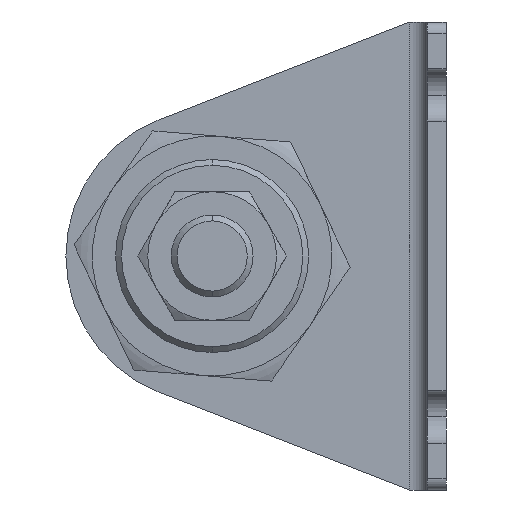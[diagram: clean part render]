
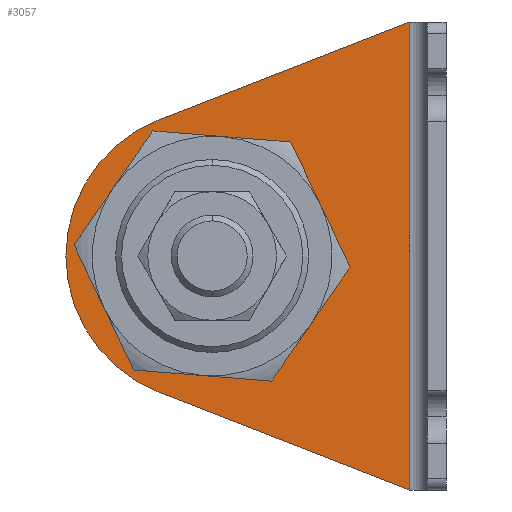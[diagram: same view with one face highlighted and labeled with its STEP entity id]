
A CAD part, left-side view. The second image highlights one B-rep face of the part: STEP entity #3057.
In plain terms, the highlighted planar face has unit normal (-1, 0, 0) as drawn and (1, 0, 0) by its records, which use the part's own axes.
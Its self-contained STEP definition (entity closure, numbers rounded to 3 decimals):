
#19 = EDGE_CURVE ( 'NONE', #4283, #2042, #759, .T. ) ;
#191 = CARTESIAN_POINT ( 'NONE',  ( 3.2, 6.2, 0. ) ) ;
#225 = VECTOR ( 'NONE', #3807, 1000. ) ;
#364 = EDGE_LOOP ( 'NONE', ( #3931, #508, #1097, #3179, #2885 ) ) ;
#400 = VERTEX_POINT ( 'NONE', #4036 ) ;
#467 = DIRECTION ( 'NONE',  ( 0., 0.932, 0.363 ) ) ;
#500 = CARTESIAN_POINT ( 'NONE',  ( 3.2, 56.5, -40. ) ) ;
#503 = CARTESIAN_POINT ( 'NONE',  ( 3.2, 40., -40. ) ) ;
#508 = ORIENTED_EDGE ( 'NONE', *, *, #19, .T. ) ;
#565 = ORIENTED_EDGE ( 'NONE', *, *, #2071, .F. ) ;
#759 = CIRCLE ( 'NONE', #3950, 25. ) ;
#798 = CIRCLE ( 'NONE', #1083, 16.5 ) ;
#901 = CARTESIAN_POINT ( 'NONE',  ( 3.2, 3.595, -81.015 ) ) ;
#952 = EDGE_CURVE ( 'NONE', #2042, #400, #3707, .T. ) ;
#1026 = EDGE_CURVE ( 'NONE', #2279, #2655, #798, .T. ) ;
#1053 = DIRECTION ( 'NONE',  ( 0., 1., 0. ) ) ;
#1083 = AXIS2_PLACEMENT_3D ( 'NONE', #4458, #2097, #1531 ) ;
#1097 = ORIENTED_EDGE ( 'NONE', *, *, #952, .T. ) ;
#1150 = DIRECTION ( 'NONE',  ( 0., 1., 0. ) ) ;
#1162 = AXIS2_PLACEMENT_3D ( 'NONE', #503, #2567, #1165 ) ;
#1165 = DIRECTION ( 'NONE',  ( 0., 1., 0. ) ) ;
#1192 = LINE ( 'NONE', #901, #1700 ) ;
#1212 = DIRECTION ( 'NONE',  ( 1., 0., 0. ) ) ;
#1264 = CARTESIAN_POINT ( 'NONE',  ( 3.2, 6.2, -80. ) ) ;
#1395 = CARTESIAN_POINT ( 'NONE',  ( 3.2, 30.657, -9.529 ) ) ;
#1503 = EDGE_CURVE ( 'NONE', #1628, #4283, #1192, .T. ) ;
#1527 = FACE_BOUND ( 'NONE', #2185, .T. ) ;
#1531 = DIRECTION ( 'NONE',  ( 0., 1., 0. ) ) ;
#1628 = VERTEX_POINT ( 'NONE', #1737 ) ;
#1700 = VECTOR ( 'NONE', #467, 1000. ) ;
#1737 = CARTESIAN_POINT ( 'NONE',  ( 3.2, 6.2, -80. ) ) ;
#1970 = CIRCLE ( 'NONE', #1162, 16.5 ) ;
#2012 = FACE_OUTER_BOUND ( 'NONE', #364, .T. ) ;
#2042 = VERTEX_POINT ( 'NONE', #4400 ) ;
#2071 = EDGE_CURVE ( 'NONE', #2655, #2279, #1970, .T. ) ;
#2097 = DIRECTION ( 'NONE',  ( 1., 0., 0. ) ) ;
#2112 = AXIS2_PLACEMENT_3D ( 'NONE', #3631, #4182, #1150 ) ;
#2162 = CARTESIAN_POINT ( 'NONE',  ( 3.2, 40., -40. ) ) ;
#2171 = CARTESIAN_POINT ( 'NONE',  ( 3.2, 23.5, -40. ) ) ;
#2175 = EDGE_CURVE ( 'NONE', #2292, #400, #2399, .T. ) ;
#2185 = EDGE_LOOP ( 'NONE', ( #565, #4207 ) ) ;
#2279 = VERTEX_POINT ( 'NONE', #2171 ) ;
#2292 = VERTEX_POINT ( 'NONE', #191 ) ;
#2384 = DIRECTION ( 'NONE',  ( 1., 0., 0. ) ) ;
#2399 = LINE ( 'NONE', #1395, #2770 ) ;
#2567 = DIRECTION ( 'NONE',  ( 1., 0., 0. ) ) ;
#2655 = VERTEX_POINT ( 'NONE', #500 ) ;
#2661 = LINE ( 'NONE', #1264, #225 ) ;
#2770 = VECTOR ( 'NONE', #3164, 1000. ) ;
#2885 = ORIENTED_EDGE ( 'NONE', *, *, #4164, .T. ) ;
#3057 = ADVANCED_FACE ( 'NONE', ( #1527, #2012 ), #3300, .T. ) ;
#3164 = DIRECTION ( 'NONE',  ( 0., 0.932, -0.363 ) ) ;
#3179 = ORIENTED_EDGE ( 'NONE', *, *, #2175, .F. ) ;
#3196 = CARTESIAN_POINT ( 'NONE',  ( 3.2, 49.076, -63.294 ) ) ;
#3300 = PLANE ( 'NONE',  #2112 ) ;
#3631 = CARTESIAN_POINT ( 'NONE',  ( 3.2, 3.2, -80. ) ) ;
#3707 = CIRCLE ( 'NONE', #4144, 25. ) ;
#3759 = DIRECTION ( 'NONE',  ( 0., 1., 0. ) ) ;
#3807 = DIRECTION ( 'NONE',  ( 0., 0., -1. ) ) ;
#3931 = ORIENTED_EDGE ( 'NONE', *, *, #1503, .T. ) ;
#3950 = AXIS2_PLACEMENT_3D ( 'NONE', #2162, #2384, #1053 ) ;
#3980 = CARTESIAN_POINT ( 'NONE',  ( 3.2, 40., -40. ) ) ;
#4036 = CARTESIAN_POINT ( 'NONE',  ( 3.2, 49.076, -16.706 ) ) ;
#4144 = AXIS2_PLACEMENT_3D ( 'NONE', #3980, #1212, #3759 ) ;
#4164 = EDGE_CURVE ( 'NONE', #2292, #1628, #2661, .T. ) ;
#4182 = DIRECTION ( 'NONE',  ( 1., 0., 0. ) ) ;
#4207 = ORIENTED_EDGE ( 'NONE', *, *, #1026, .F. ) ;
#4283 = VERTEX_POINT ( 'NONE', #3196 ) ;
#4400 = CARTESIAN_POINT ( 'NONE',  ( 3.2, 65., -40. ) ) ;
#4458 = CARTESIAN_POINT ( 'NONE',  ( 3.2, 40., -40. ) ) ;
